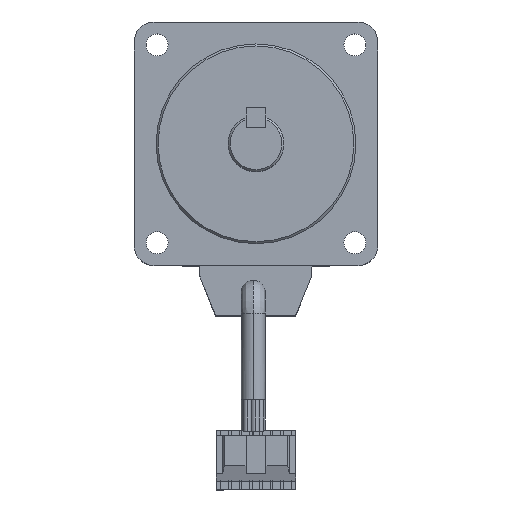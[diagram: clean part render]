
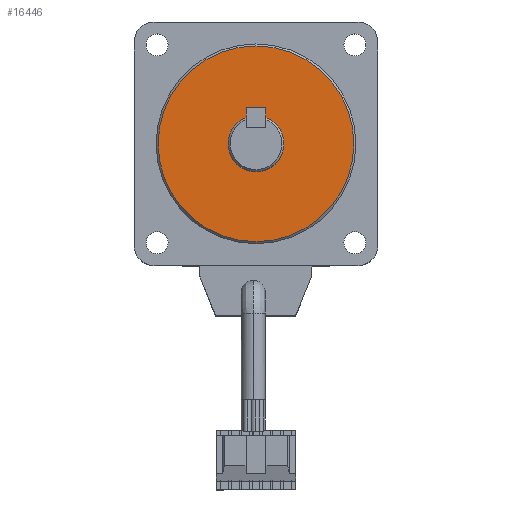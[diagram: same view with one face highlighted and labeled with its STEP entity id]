
A CAD part, top view. The second image highlights one B-rep face of the part: STEP entity #16446.
In plain terms, the highlighted planar face has unit normal (0, 0, 1).
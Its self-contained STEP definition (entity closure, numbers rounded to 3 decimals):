
#49 = DIRECTION ( 'NONE',  ( 1., 0., 0. ) ) ;
#138 = ORIENTED_EDGE ( 'NONE', *, *, #20381, .F. ) ;
#811 = AXIS2_PLACEMENT_3D ( 'NONE', #5940, #11822, #49 ) ;
#1279 = AXIS2_PLACEMENT_3D ( 'NONE', #8249, #21966, #10224 ) ;
#1429 = AXIS2_PLACEMENT_3D ( 'NONE', #8781, #22503, #10733 ) ;
#1784 = ORIENTED_EDGE ( 'NONE', *, *, #21838, .T. ) ;
#2709 = ORIENTED_EDGE ( 'NONE', *, *, #23037, .T. ) ;
#3623 = CARTESIAN_POINT ( 'NONE',  ( 24.5, 0., 10. ) ) ;
#4642 = EDGE_LOOP ( 'NONE', ( #2709, #1784 ) ) ;
#4717 = CIRCLE ( 'NONE', #1429, 24.5 ) ;
#4907 = DIRECTION ( 'NONE',  ( 0., 0., 1. ) ) ;
#5291 = DIRECTION ( 'NONE',  ( 0., 0., 1. ) ) ;
#5940 = CARTESIAN_POINT ( 'NONE',  ( 0., 0., 10. ) ) ;
#7989 = AXIS2_PLACEMENT_3D ( 'NONE', #16667, #4907, #18639 ) ;
#8249 = CARTESIAN_POINT ( 'NONE',  ( 0., 0., 10. ) ) ;
#8781 = CARTESIAN_POINT ( 'NONE',  ( 0., 0., 10. ) ) ;
#9865 = PLANE ( 'NONE',  #811 ) ;
#10224 = DIRECTION ( 'NONE',  ( 1., 0., 0. ) ) ;
#10733 = DIRECTION ( 'NONE',  ( 1., 0., 0. ) ) ;
#11397 = VERTEX_POINT ( 'NONE', #12882 ) ;
#11822 = DIRECTION ( 'NONE',  ( 0., 0., 1. ) ) ;
#12325 = EDGE_LOOP ( 'NONE', ( #23195, #138 ) ) ;
#12882 = CARTESIAN_POINT ( 'NONE',  ( -7., 0., 10. ) ) ;
#14112 = CIRCLE ( 'NONE', #1279, 7. ) ;
#15060 = CIRCLE ( 'NONE', #7989, 7. ) ;
#15079 = AXIS2_PLACEMENT_3D ( 'NONE', #17025, #5291, #18999 ) ;
#16446 = ADVANCED_FACE ( 'NONE', ( #22585, #16759 ), #9865, .T. ) ;
#16667 = CARTESIAN_POINT ( 'NONE',  ( 0., 0., 10. ) ) ;
#16759 = FACE_BOUND ( 'NONE', #12325, .T. ) ;
#16981 = VERTEX_POINT ( 'NONE', #23865 ) ;
#17025 = CARTESIAN_POINT ( 'NONE',  ( 0., 0., 10. ) ) ;
#17200 = CARTESIAN_POINT ( 'NONE',  ( 7., 0., 10. ) ) ;
#18639 = DIRECTION ( 'NONE',  ( 1., 0., 0. ) ) ;
#18999 = DIRECTION ( 'NONE',  ( 1., 0., 0. ) ) ;
#19882 = VERTEX_POINT ( 'NONE', #17200 ) ;
#20381 = EDGE_CURVE ( 'NONE', #19882, #11397, #15060, .T. ) ;
#20598 = CIRCLE ( 'NONE', #15079, 24.5 ) ;
#21838 = EDGE_CURVE ( 'NONE', #22049, #16981, #4717, .T. ) ;
#21966 = DIRECTION ( 'NONE',  ( 0., 0., 1. ) ) ;
#22049 = VERTEX_POINT ( 'NONE', #3623 ) ;
#22503 = DIRECTION ( 'NONE',  ( 0., 0., 1. ) ) ;
#22585 = FACE_OUTER_BOUND ( 'NONE', #4642, .T. ) ;
#23037 = EDGE_CURVE ( 'NONE', #16981, #22049, #20598, .T. ) ;
#23195 = ORIENTED_EDGE ( 'NONE', *, *, #24028, .F. ) ;
#23865 = CARTESIAN_POINT ( 'NONE',  ( -24.5, 0., 10. ) ) ;
#24028 = EDGE_CURVE ( 'NONE', #11397, #19882, #14112, .T. ) ;
